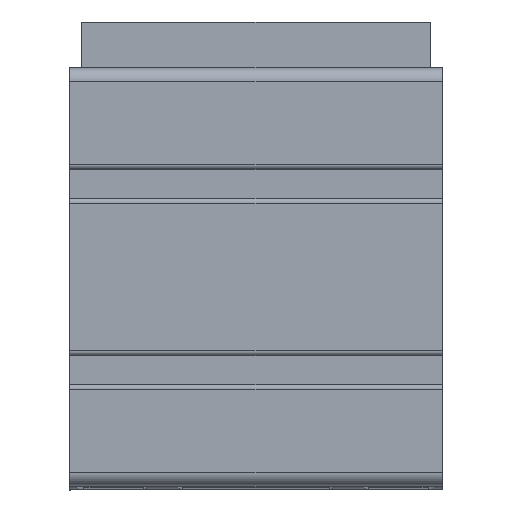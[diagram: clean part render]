
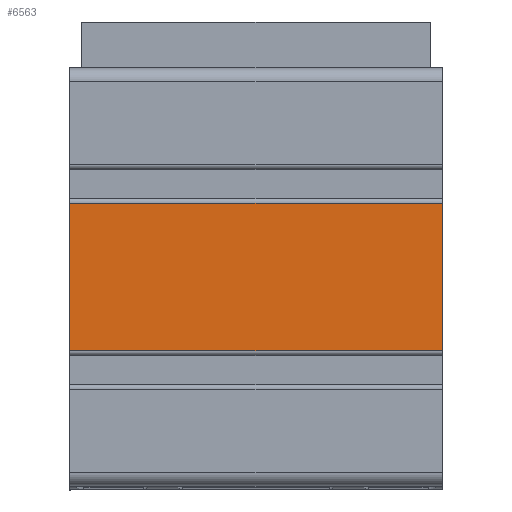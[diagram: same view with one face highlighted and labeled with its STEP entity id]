
A CAD part, top view. The second image highlights one B-rep face of the part: STEP entity #6563.
In plain terms, the highlighted planar face has unit normal (0, 0, 1) as drawn and (1, 0, 0) by its records, which use the part's own axes.
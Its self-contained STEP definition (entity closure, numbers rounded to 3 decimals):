
#5062=CARTESIAN_POINT('',(90.,60.9,0.0));
#5063=VERTEX_POINT('',#5062);
#5071=CARTESIAN_POINT('',(90.0,29.1,0.0));
#5072=VERTEX_POINT('',#5071);
#5073=CARTESIAN_POINT('',(90.0,29.1,0.0));
#5074=DIRECTION('',(0.0,1.0,0.0));
#5075=VECTOR('',#5074,31.8);
#5076=LINE('',#5073,#5075);
#5077=EDGE_CURVE('',#5072,#5063,#5076,.T.);
#5304=CARTESIAN_POINT('',(90.0,29.1,80.0));
#5305=VERTEX_POINT('',#5304);
#5313=CARTESIAN_POINT('',(90.,60.9,80.0));
#5314=VERTEX_POINT('',#5313);
#5315=CARTESIAN_POINT('',(90.,60.9,80.0));
#5316=DIRECTION('',(0.0,-1.0,0.0));
#5317=VECTOR('',#5316,31.8);
#5318=LINE('',#5315,#5317);
#5319=EDGE_CURVE('',#5314,#5305,#5318,.T.);
#5978=CARTESIAN_POINT('',(90.0,29.1,0.0));
#5979=DIRECTION('',(0.0,0.0,1.0));
#5980=VECTOR('',#5979,80.0);
#5981=LINE('',#5978,#5980);
#5982=EDGE_CURVE('',#5072,#5305,#5981,.T.);
#6017=CARTESIAN_POINT('',(90.,60.9,80.0));
#6018=DIRECTION('',(0.0,0.0,-1.0));
#6019=VECTOR('',#6018,80.0);
#6020=LINE('',#6017,#6019);
#6021=EDGE_CURVE('',#5314,#5063,#6020,.T.);
#6552=CARTESIAN_POINT('',(90.,90.0,0.0));
#6553=DIRECTION('',(1.0,0.0,0.0));
#6554=DIRECTION('',(0.0,0.0,-1.0));
#6555=AXIS2_PLACEMENT_3D('',#6552,#6553,#6554);
#6556=PLANE('',#6555);
#6557=ORIENTED_EDGE('',*,*,#5982,.F.);
#6558=ORIENTED_EDGE('',*,*,#5077,.T.);
#6559=ORIENTED_EDGE('',*,*,#6021,.F.);
#6560=ORIENTED_EDGE('',*,*,#5319,.T.);
#6561=EDGE_LOOP('',(#6557,#6558,#6559,#6560));
#6562=FACE_OUTER_BOUND('',#6561,.T.);
#6563=ADVANCED_FACE('',(#6562),#6556,.T.);
